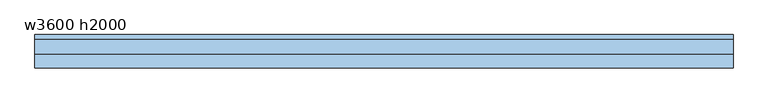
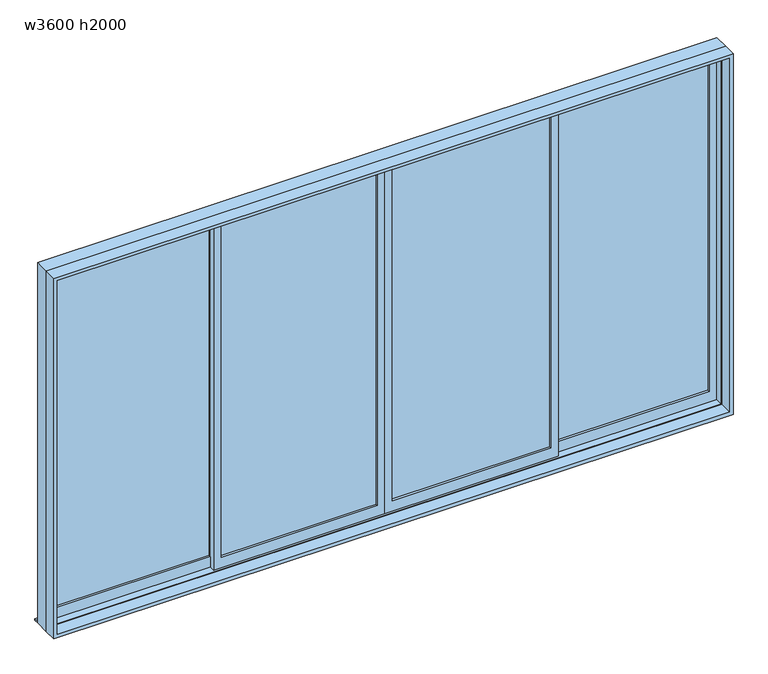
"""IFC4 building model written with IfcOpenShell, lengths in millimetres: window geometry, 窓 - 引違い掃出 4 枚 2 溝 - 内付 : w3600 h2000."""

from ifc_helpers import new_model, si_unit, frame, origin, origin_with_axes, place, context, project, spatial, polyline, outline, extrude, source, transform, mapped, element, save


def w3600_h2000_b2174b04(model_context):
    return source(origin(), model_context, "Body", "SweptSolid", [
        extrude(outline(polyline([(0.0, 1825.0), (2050.0, 1825.0), (2050.0, -1825.0), (0.0, -1825.0), (0.0, 1825.0)]), holes=[polyline([(20.0, 1805.0), (20.0, -1805.0), (2030.0, -1805.0), (2030.0, 1805.0), (20.0, 1805.0)])]), frame((0.0, -90.0, 0.0), z_axis=(0.0, 1.0, 0.0), x_axis=(0.0, 0.0, 1.0)), (0.0, 0.0, 1.0), 70.0),
        extrude(outline(polyline([(0.0, -1825.0), (0.0, 1825.0), (2050.0, 1825.0), (2050.0, -1825.0), (0.0, -1825.0)]), holes=[polyline([(25.0, -1800.0), (2025.0, -1800.0), (2025.0, 1800.0), (25.0, 1800.0), (25.0, -1800.0)])]), frame((0.0, -20.0, 0.0), z_axis=(0.0, 1.0, 0.0), x_axis=(0.0, 0.0, 1.0)), (0.0, 0.0, 1.0), 80.0),
        extrude(outline(polyline([(2025.0, 932.5), (2025.0, 0.0), (25.0, 0.0), (25.0, 932.5), (2025.0, 932.5)]), holes=[polyline([(1985.0, 40.0), (1985.0, 892.5), (85.0, 892.5), (85.0, 40.0), (1985.0, 40.0)])]), frame((0.0, -10.0, 0.0), z_axis=(0.0, 1.0, 0.0), x_axis=(0.0, 0.0, 1.0)), (0.0, 0.0, 1.0), 30.0),
        extrude(outline(polyline([(-40.0, 2.5), (-880.0, 2.5), (-880.0, 7.5), (-40.0, 7.5), (-40.0, 2.5)])), frame((0.0, 0.0, 85.0), z_axis=(0.0, 0.0, 1.0), x_axis=(1.0, 0.0, 0.0)), (0.0, 0.0, 1.0), 1900.0),
        extrude(outline(polyline([(892.5, 2.5), (40.0, 2.5), (40.0, 7.5), (892.5, 7.5), (892.5, 2.5)])), frame((0.0, 0.0, 85.0), z_axis=(0.0, 0.0, 1.0), x_axis=(1.0, 0.0, 0.0)), (0.0, 0.0, 1.0), 1900.0),
        extrude(outline(polyline([(2025.0, -920.0), (25.0, -920.0), (25.0, 0.0), (2025.0, 0.0), (2025.0, -920.0)]), holes=[polyline([(1985.0, -880.0), (1985.0, -40.0), (85.0, -40.0), (85.0, -880.0), (1985.0, -880.0)])]), frame((0.0, -10.0, 0.0), z_axis=(0.0, 1.0, 0.0), x_axis=(0.0, 0.0, 1.0)), (0.0, 0.0, 1.0), 30.0),
        extrude(outline(polyline([(-920.0, 32.5), (-1760.0, 32.5), (-1760.0, 37.5), (-920.0, 37.5), (-920.0, 32.5)])), frame((0.0, 0.0, 85.0), z_axis=(0.0, 0.0, 1.0), x_axis=(1.0, 0.0, 0.0)), (0.0, 0.0, 1.0), 1900.0),
        extrude(outline(polyline([(1760.0, 32.5), (932.5, 32.5), (932.5, 37.5), (1760.0, 37.5), (1760.0, 32.5)])), frame((0.0, 0.0, 85.0), z_axis=(0.0, 0.0, 1.0), x_axis=(1.0, 0.0, 0.0)), (0.0, 0.0, 1.0), 1900.0),
        extrude(outline(polyline([(25.0, -1800.0), (25.0, -880.0), (2025.0, -880.0), (2025.0, -1800.0), (25.0, -1800.0)]), holes=[polyline([(85.0, -1760.0), (1985.0, -1760.0), (1985.0, -920.0), (85.0, -920.0), (85.0, -1760.0)])]), frame((0.0, 20.0, 0.0), z_axis=(0.0, 1.0, 0.0), x_axis=(0.0, 0.0, 1.0)), (0.0, 0.0, 1.0), 30.0),
        extrude(outline(polyline([(2025.0, 1800.0), (2025.0, 892.5), (25.0, 892.5), (25.0, 1800.0), (2025.0, 1800.0)]), holes=[polyline([(1985.0, 1760.0), (85.0, 1760.0), (85.0, 932.5), (1985.0, 932.5), (1985.0, 1760.0)])]), frame((0.0, 20.0, 0.0), z_axis=(0.0, 1.0, 0.0), x_axis=(0.0, 0.0, 1.0)), (0.0, 0.0, 1.0), 30.0),
        extrude(outline(polyline([(1825.0, 85.0), (1825.0, 60.0), (-1825.0, 60.0), (-1825.0, 85.0), (1825.0, 85.0)])), origin_with_axes(), (0.0, 0.0, 1.0), 10.0),
    ])


if __name__ == "__main__":
    model = new_model("IFC4")
    model_context = context("Model", 3, world=origin())
    ifc_project = project(units=[si_unit("LENGTHUNIT", "METRE", prefix="MILLI")], contexts=[model_context])
    site = spatial("IfcSite", under=ifc_project)
    building = spatial("IfcBuilding", under=site)
    placement = place(None, origin())
    w3600_h2000_shape = w3600_h2000_b2174b04(model_context)
    element("IfcWindow", 1, ObjectType="窓 - 引違い掃出 4 枚 2 溝 - 内付 : w3600 h2000", at=placement, inside=building, context=model_context, shape_type="MappedRepresentation", body=[
        mapped(w3600_h2000_shape, transform((0.0, 0.0, 0.0), x_axis=(1.0, 0.0, 0.0), y_axis=(0.0, 1.0, 0.0), z_axis=(0.0, 0.0, 1.0))),
    ])
    save(model, "model.ifc")
